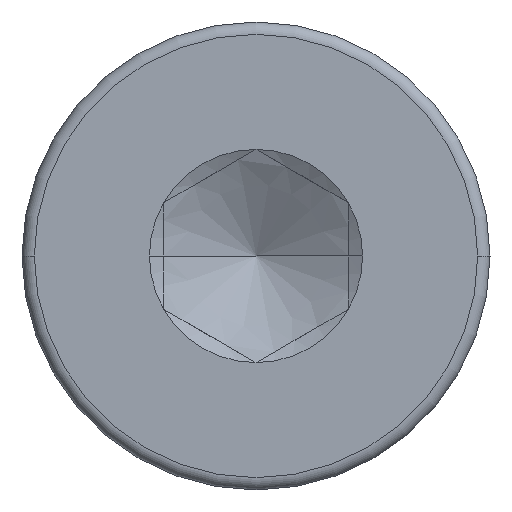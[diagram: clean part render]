
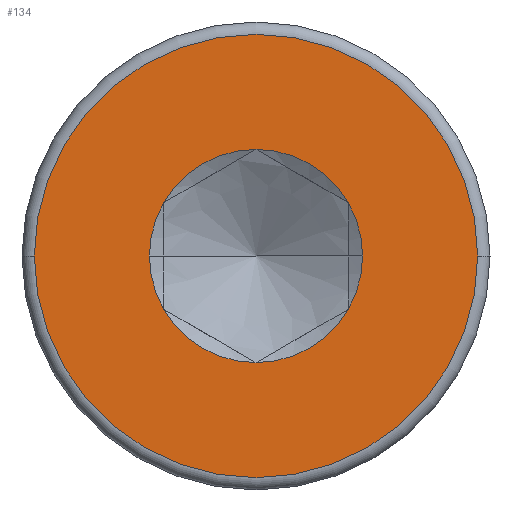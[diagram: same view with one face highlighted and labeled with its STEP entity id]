
A CAD part, left-side view. The second image highlights one B-rep face of the part: STEP entity #134.
In plain terms, the highlighted planar face has unit normal (-1, 0, 0).
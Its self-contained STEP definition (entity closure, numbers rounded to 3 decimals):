
#90=FACE_BOUND('',#206,.F.);
#101=PLANE('',#615);
#134=ADVANCED_FACE('',(#90,#169),#101,.T.);
#169=FACE_OUTER_BOUND('',#207,.F.);
#206=EDGE_LOOP('',(#330,#331,#332,#333,#334,#335,#336,#337));
#207=EDGE_LOOP('',(#338,#339));
#330=ORIENTED_EDGE('',*,*,#460,.T.);
#331=ORIENTED_EDGE('',*,*,#459,.T.);
#332=ORIENTED_EDGE('',*,*,#458,.T.);
#333=ORIENTED_EDGE('',*,*,#465,.T.);
#334=ORIENTED_EDGE('',*,*,#464,.T.);
#335=ORIENTED_EDGE('',*,*,#463,.T.);
#336=ORIENTED_EDGE('',*,*,#462,.T.);
#337=ORIENTED_EDGE('',*,*,#461,.T.);
#338=ORIENTED_EDGE('',*,*,#473,.F.);
#339=ORIENTED_EDGE('',*,*,#466,.F.);
#458=EDGE_CURVE('',#544,#531,#492,.T.);
#459=EDGE_CURVE('',#545,#544,#493,.T.);
#460=EDGE_CURVE('',#546,#545,#494,.T.);
#461=EDGE_CURVE('',#532,#546,#495,.T.);
#462=EDGE_CURVE('',#547,#532,#496,.T.);
#463=EDGE_CURVE('',#541,#547,#497,.T.);
#464=EDGE_CURVE('',#542,#541,#498,.T.);
#465=EDGE_CURVE('',#531,#542,#499,.T.);
#466=EDGE_CURVE('',#521,#520,#500,.T.);
#473=EDGE_CURVE('',#520,#521,#505,.T.);
#492=CIRCLE('',#575,0.865);
#493=CIRCLE('',#576,0.865);
#494=CIRCLE('',#577,0.865);
#495=CIRCLE('',#578,0.865);
#496=CIRCLE('',#579,0.865);
#497=CIRCLE('',#580,0.865);
#498=CIRCLE('',#581,0.865);
#499=CIRCLE('',#582,0.865);
#500=CIRCLE('',#583,1.8);
#505=CIRCLE('',#588,1.8);
#520=VERTEX_POINT('',#817);
#521=VERTEX_POINT('',#818);
#531=VERTEX_POINT('',#828);
#532=VERTEX_POINT('',#829);
#541=VERTEX_POINT('',#838);
#542=VERTEX_POINT('',#839);
#544=VERTEX_POINT('',#841);
#545=VERTEX_POINT('',#842);
#546=VERTEX_POINT('',#843);
#547=VERTEX_POINT('',#844);
#575=AXIS2_PLACEMENT_3D('',#964,#690,#691);
#576=AXIS2_PLACEMENT_3D('',#965,#692,#693);
#577=AXIS2_PLACEMENT_3D('',#966,#694,#695);
#578=AXIS2_PLACEMENT_3D('',#967,#696,#697);
#579=AXIS2_PLACEMENT_3D('',#968,#698,#699);
#580=AXIS2_PLACEMENT_3D('',#969,#700,#701);
#581=AXIS2_PLACEMENT_3D('',#970,#702,#703);
#582=AXIS2_PLACEMENT_3D('',#971,#704,#705);
#583=AXIS2_PLACEMENT_3D('',#972,#706,#707);
#588=AXIS2_PLACEMENT_3D('',#979,#718,#719);
#615=AXIS2_PLACEMENT_3D('',#1006,#772,#773);
#690=DIRECTION('',(-1.,0.,0.));
#691=DIRECTION('',(0.,0.866,0.5));
#692=DIRECTION('',(-1.,0.,0.));
#693=DIRECTION('',(0.,0.,1.));
#694=DIRECTION('',(-1.,0.,0.));
#695=DIRECTION('',(0.,-0.866,0.5));
#696=DIRECTION('',(-1.,0.,0.));
#697=DIRECTION('',(0.,-1.,0.));
#698=DIRECTION('',(-1.,0.,0.));
#699=DIRECTION('',(0.,-0.866,-0.5));
#700=DIRECTION('',(-1.,0.,0.));
#701=DIRECTION('',(0.,0.,-1.));
#702=DIRECTION('',(-1.,0.,0.));
#703=DIRECTION('',(0.,0.867,-0.499));
#704=DIRECTION('',(-1.,0.,0.));
#705=DIRECTION('',(0.,1.,0.));
#706=DIRECTION('',(-1.,0.,0.));
#707=DIRECTION('',(0.,1.,0.));
#718=DIRECTION('',(-1.,0.,0.));
#719=DIRECTION('',(0.,-1.,0.));
#772=DIRECTION('',(-1.,0.,0.));
#773=DIRECTION('',(0.,0.,1.));
#817=CARTESIAN_POINT('',(31.975,2.799,340.443));
#818=CARTESIAN_POINT('',(31.975,6.399,340.443));
#828=CARTESIAN_POINT('',(31.975,5.465,340.443));
#829=CARTESIAN_POINT('',(31.975,3.734,340.443));
#838=CARTESIAN_POINT('',(31.975,4.599,339.578));
#839=CARTESIAN_POINT('',(31.975,5.349,340.011));
#841=CARTESIAN_POINT('',(31.975,5.349,340.876));
#842=CARTESIAN_POINT('',(31.975,4.599,341.309));
#843=CARTESIAN_POINT('',(31.975,3.849,340.876));
#844=CARTESIAN_POINT('',(31.975,3.849,340.01));
#964=CARTESIAN_POINT('',(31.975,4.599,340.443));
#965=CARTESIAN_POINT('',(31.975,4.599,340.443));
#966=CARTESIAN_POINT('',(31.975,4.599,340.443));
#967=CARTESIAN_POINT('',(31.975,4.599,340.443));
#968=CARTESIAN_POINT('',(31.975,4.599,340.443));
#969=CARTESIAN_POINT('',(31.975,4.599,340.443));
#970=CARTESIAN_POINT('',(31.975,4.599,340.443));
#971=CARTESIAN_POINT('',(31.975,4.599,340.443));
#972=CARTESIAN_POINT('',(31.975,4.599,340.443));
#979=CARTESIAN_POINT('',(31.975,4.599,340.443));
#1006=CARTESIAN_POINT('',(31.975,2.763,338.607));
